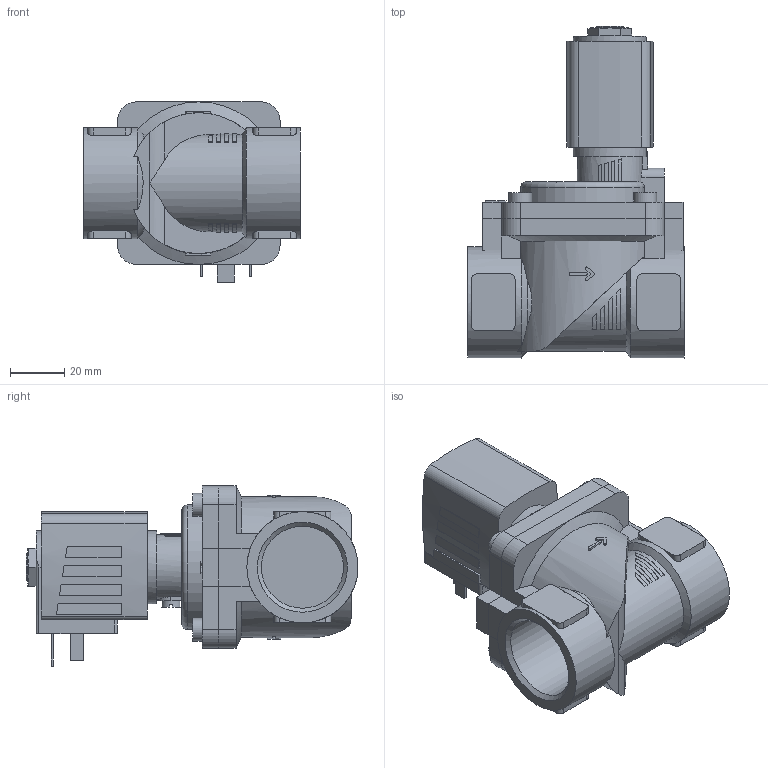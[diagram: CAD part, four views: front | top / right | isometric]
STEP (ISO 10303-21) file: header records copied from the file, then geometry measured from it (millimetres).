
FILE_DESCRIPTION(/* description */ ('STEP AP214'),/* implementation_level */ '2;1');
FILE_NAME(/* name */ '6281-322400-2_2-Way_Solenoid_Valve__Servo-assisted__General_Purpose',/* time_stamp */ '2024-06-09T23:39:22+02:00',/* author */ ('License CC BY-ND 4.0'),/* organization */ ('CADENAS'),/* preprocessor_version */ 'ST-DEVELOPER v19.3',/* originating_system */ 'PARTsolutions',/* authorisation */ ' ');
FILE_SCHEMA (('AUTOMOTIVE_DESIGN {1 0 10303 214 3 1 1}'));
Length unit declared in the file: millimetre
Products named in the file (4): 6281-322400-2/2-Way Solenoid Valve, Servo-assisted, General Purpose; 5281ev202MS2/2-Wege-Magnetventil mit Servomembran-Deckel  HA15 ; 6213-20G1MS-Gehaeuse-; AC10ex-5NA38-Plan-Coil
Assembly tree (3 placements, depth 2):
  6281-322400-2/2-Way Solenoid Valve, Servo-assisted, General Purpose
    5281ev202MS2/2-Wege-Magnetventil mit Servomembran-Deckel  HA15 
    6213-20G1MS-Gehaeuse-
    AC10ex-5NA38-Plan-Coil
Bounding box: 80 x 122.5 x 66.5 mm (x, y, z)
Volume: 212249.2 mm3; surface area: 46147.6 mm2
Topology: 3 solids, 3 shells, 338 faces, 862 edges, 569 vertices
Faces by surface type: plane 234, cylinder 88, cone 15, torus 1
Full cylindrical faces by diameter (mm): 2.013 x1, 7 x1, 8.5 x4, 9.74 x1, 27 x1, 30.291 x2, 41 x2
Entity records: 11507 total; most frequent: CARTESIAN_POINT 2021, DIRECTION 1706, ORIENTED_EDGE 1674, EDGE_CURVE 837, AXIS2_PLACEMENT_3D 599, VERTEX_POINT 560, LINE 508, VECTOR 508
